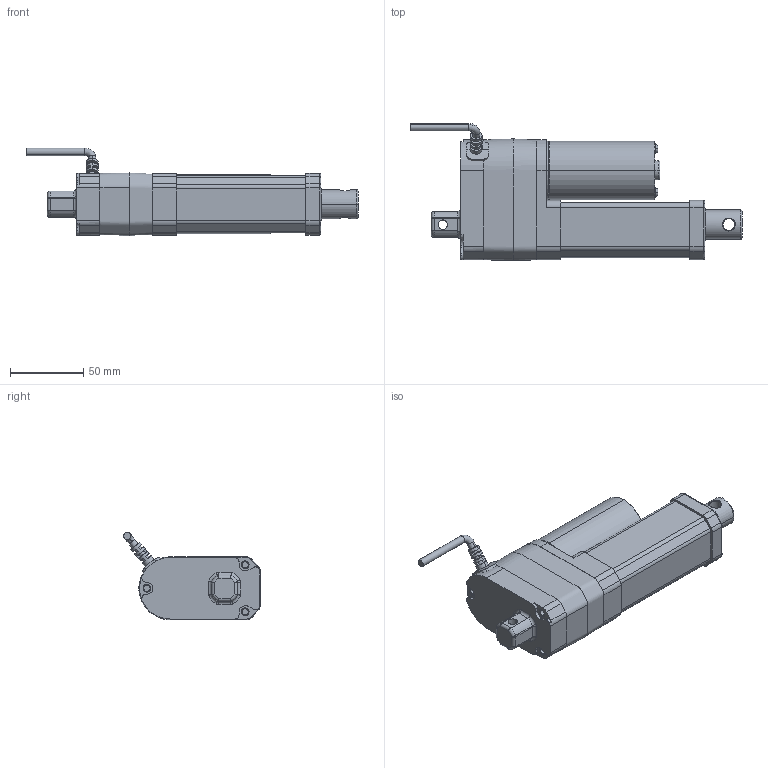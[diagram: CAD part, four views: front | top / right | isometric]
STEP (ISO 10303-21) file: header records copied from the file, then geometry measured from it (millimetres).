
FILE_DESCRIPTION((''),' ');
FILE_NAME('dszy11_050_pot.stp',' ',('r'),('r'),' ','ACIS 14.0',' ');
FILE_SCHEMA(('automotive_design'));
Length unit declared in the file: inch
Products named in the file (3): DSZY11-POT-050
Bounding box: 226.45 x 93.39 x 59.66 mm (x, y, z)
Volume: 346340 mm3; surface area: 74400.1 mm2
Topology: 3 solids, 3 shells, 320 faces, 842 edges, 551 vertices
Faces by surface type: cylinder 130, plane 121, torus 32, cone 20, bspline 13, sphere 4
Entity records: 13310 total; most frequent: CARTESIAN_POINT 2632, DIRECTION 1741, ORIENTED_EDGE 1672, EDGE_CURVE 836, AXIS2_PLACEMENT_3D 679, VERTEX_POINT 551, LINE 383, VECTOR 383
